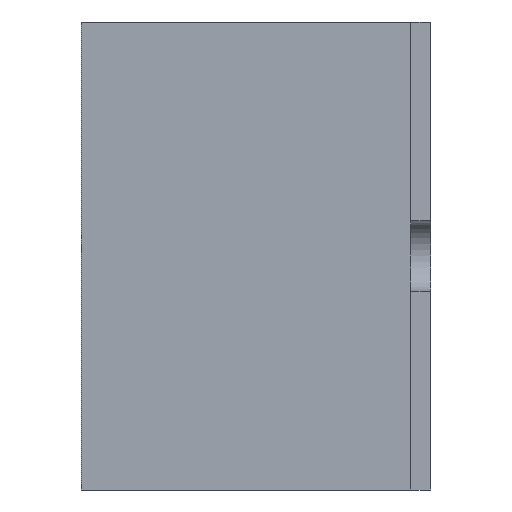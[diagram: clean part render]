
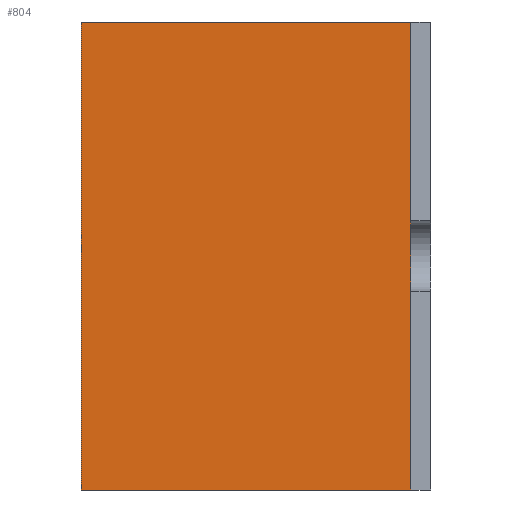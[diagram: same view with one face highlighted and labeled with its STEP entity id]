
A CAD part, left-side view. The second image highlights one B-rep face of the part: STEP entity #804.
In plain terms, the highlighted planar face has unit normal (-1, 0, 0).
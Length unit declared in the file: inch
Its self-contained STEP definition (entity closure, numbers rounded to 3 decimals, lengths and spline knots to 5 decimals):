
#193=DIRECTION('',(0.,0.,-1.));
#194=VECTOR('',#193,1.85);
#195=CARTESIAN_POINT('',(-4.2,0.079,0.925));
#196=LINE('',#195,#194);
#261=DIRECTION('',(0.,1.,0.));
#262=VECTOR('',#261,1.301);
#263=CARTESIAN_POINT('',(-4.2,0.079,0.925));
#264=LINE('',#263,#262);
#269=DIRECTION('',(0.,1.,0.));
#270=VECTOR('',#269,1.301);
#271=CARTESIAN_POINT('',(-4.2,0.079,-0.925));
#272=LINE('',#271,#270);
#273=DIRECTION('',(0.,0.,1.));
#274=VECTOR('',#273,1.85);
#275=CARTESIAN_POINT('',(-4.2,1.38,-0.925));
#276=LINE('',#275,#274);
#385=CARTESIAN_POINT('',(-4.2,1.38,-0.925));
#386=CARTESIAN_POINT('',(-4.2,1.38,0.925));
#387=VERTEX_POINT('',#385);
#388=VERTEX_POINT('',#386);
#393=CARTESIAN_POINT('',(-4.2,0.079,0.925));
#394=CARTESIAN_POINT('',(-4.2,0.079,-0.925));
#395=VERTEX_POINT('',#393);
#396=VERTEX_POINT('',#394);
#792=CARTESIAN_POINT('',(-4.2,0.,-0.925));
#793=DIRECTION('',(-1.,0.,0.));
#794=DIRECTION('',(0.,0.,1.));
#795=AXIS2_PLACEMENT_3D('',#792,#793,#794);
#796=PLANE('',#795);
#797=ORIENTED_EDGE('',*,*,#576,.T.);
#798=ORIENTED_EDGE('',*,*,#749,.T.);
#800=ORIENTED_EDGE('',*,*,#799,.T.);
#801=ORIENTED_EDGE('',*,*,#779,.F.);
#802=EDGE_LOOP('',(#797,#798,#800,#801));
#803=FACE_OUTER_BOUND('',#802,.F.);
#804=ADVANCED_FACE('',(#803),#796,.T.);
#576=EDGE_CURVE('',#395,#396,#196,.T.);
#749=EDGE_CURVE('',#396,#387,#272,.T.);
#779=EDGE_CURVE('',#395,#388,#264,.T.);
#799=EDGE_CURVE('',#387,#388,#276,.T.);
